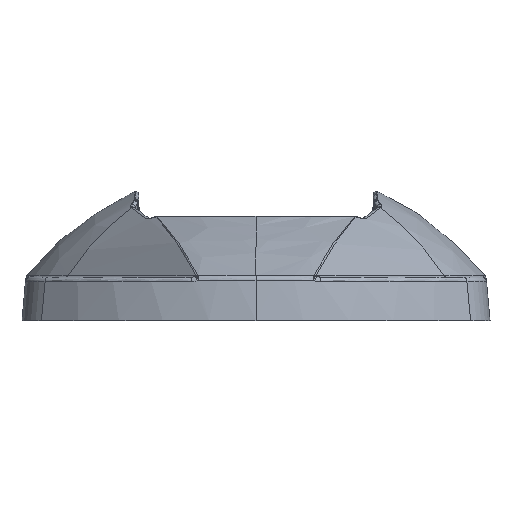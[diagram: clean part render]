
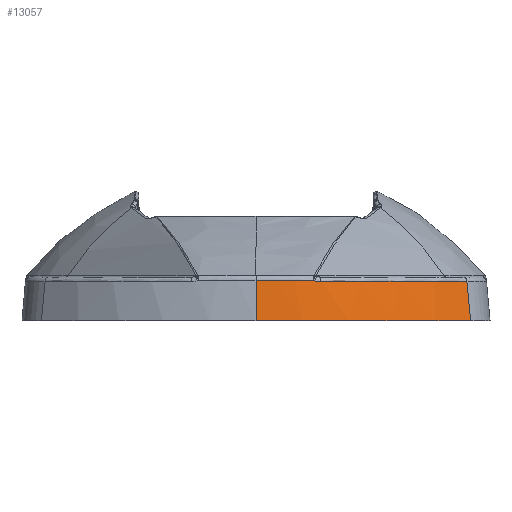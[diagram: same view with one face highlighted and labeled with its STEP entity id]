
A CAD part, left-side view. The second image highlights one B-rep face of the part: STEP entity #13057.
In plain terms, the highlighted conical face has half-angle 5 degrees and reference radius 99.437 mm.
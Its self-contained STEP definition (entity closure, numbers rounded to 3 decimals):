
#2473=DIRECTION('',(0.087,0.,0.996));
#2474=VECTOR('',#2473,12.913);
#2475=CARTESIAN_POINT('',(392.512,0.,
0.));
#2476=LINE('',#2475,#2474);
#2491=CARTESIAN_POINT('',(395.826,-20.774,12.649));
#2492=CARTESIAN_POINT('',(395.819,-20.744,12.644));
#2493=CARTESIAN_POINT('',(395.805,-20.685,12.634));
#2494=CARTESIAN_POINT('',(395.785,-20.596,12.62));
#2495=CARTESIAN_POINT('',(395.754,-20.46,12.603));
#2496=CARTESIAN_POINT('',(395.697,-20.197,12.578));
#2497=CARTESIAN_POINT('',(395.614,-19.801,12.572));
#2498=CARTESIAN_POINT('',(395.537,-19.402,12.611));
#2499=CARTESIAN_POINT('',(395.487,-19.124,12.663));
#2500=CARTESIAN_POINT('',(395.46,-18.969,12.702));
#2501=CARTESIAN_POINT('',(395.444,-18.876,12.724));
#2502=CARTESIAN_POINT('',(395.433,-18.807,12.75));
#2503=CARTESIAN_POINT('',(395.427,-18.775,12.75));
#2504=CARTESIAN_POINT('',(395.424,-18.76,12.755));
#2506=DIRECTION('',(0.031,0.094,0.995));
#2507=VECTOR('',#2506,12.711);
#2508=CARTESIAN_POINT('',(419.922,-68.78,
0.));
#2509=LINE('',#2508,#2507);
#2510=CARTESIAN_POINT('',(492.512,0.,
12.864));
#2511=DIRECTION('',(0.,0.,1.));
#2512=DIRECTION('',(-1.,0.,0.));
#2513=AXIS2_PLACEMENT_3D('',#2510,#2511,#2512);
#2525=CARTESIAN_POINT('',(395.366,-18.408,12.859));
#2544=CARTESIAN_POINT('',(395.366,-18.408,12.859));
#2545=CARTESIAN_POINT('',(395.37,-18.431,12.852));
#2546=CARTESIAN_POINT('',(395.377,-18.492,12.801));
#2547=CARTESIAN_POINT('',(395.395,-18.589,12.794));
#2548=CARTESIAN_POINT('',(395.409,-18.683,12.755));
#2549=CARTESIAN_POINT('',(395.42,-18.735,12.762));
#2550=CARTESIAN_POINT('',(395.424,-18.76,12.755));
#2572=CARTESIAN_POINT('',(395.424,-18.76,12.755));
#2596=CARTESIAN_POINT('',(492.512,0.,
12.649));
#2597=DIRECTION('',(0.,0.,1.));
#2598=DIRECTION('',(-0.978,-0.21,0.));
#2599=AXIS2_PLACEMENT_3D('',#2596,#2597,#2598);
#2609=CARTESIAN_POINT('',(395.826,-20.774,12.649));
#2617=CARTESIAN_POINT('',(420.318,-67.586,12.649));
#2624=CARTESIAN_POINT('',(492.512,0.,
0.));
#2625=DIRECTION('',(0.,0.,-1.));
#2626=DIRECTION('',(-0.726,-0.688,0.));
#2627=AXIS2_PLACEMENT_3D('',#2624,#2625,#2626);
#2636=CARTESIAN_POINT('',(419.922,-68.78,
0.));
#9431=VERTEX_POINT('',#2609);
#9678=CARTESIAN_POINT('',(393.638,0.,
12.864));
#9679=VERTEX_POINT('',#9678);
#9714=VERTEX_POINT('',#2572);
#9746=CARTESIAN_POINT('',(392.512,0.,
0.));
#9747=VERTEX_POINT('',#9746);
#9958=VERTEX_POINT('',#2525);
#9982=VERTEX_POINT('',#2636);
#9995=VERTEX_POINT('',#2617);
#13037=CARTESIAN_POINT('',(492.512,0.,
6.432));
#13038=DIRECTION('',(0.,0.,-1.));
#13039=DIRECTION('',(-1.,0.,0.));
#13040=AXIS2_PLACEMENT_3D('',#13037,#13038,#13039);
#13041=CONICAL_SURFACE('',#13040,99.437,5.);
#13043=ORIENTED_EDGE('',*,*,#13042,.T.);
#13045=ORIENTED_EDGE('',*,*,#13044,.T.);
#13047=ORIENTED_EDGE('',*,*,#13046,.F.);
#13049=ORIENTED_EDGE('',*,*,#13048,.T.);
#13051=ORIENTED_EDGE('',*,*,#13050,.F.);
#13053=ORIENTED_EDGE('',*,*,#13052,.T.);
#13054=ORIENTED_EDGE('',*,*,#13021,.T.);
#13055=EDGE_LOOP('',(#13043,#13045,#13047,#13049,#13051,#13053,#13054));
#13056=FACE_OUTER_BOUND('',#13055,.F.);
#13057=ADVANCED_FACE('',(#13056),#13041,.T.);
#2505=B_SPLINE_CURVE_WITH_KNOTS('',3,(#2491,#2492,#2493,#2494,#2495,#2496,#2497,
#2498,#2499,#2500,#2501,#2502,#2503,#2504),.UNSPECIFIED.,.F.,.F.,(4,1,1,1,1,1,1,
1,1,1,1,4),(0.,0.046,0.091,0.137,
0.253,0.49,0.726,0.84,
0.897,0.954,0.977,1.),.UNSPECIFIED.);
#2514=CIRCLE('',#2513,98.875);
#2551=B_SPLINE_CURVE_WITH_KNOTS('',3,(#2544,#2545,#2546,#2547,#2548,#2549,
#2550),.UNSPECIFIED.,.F.,.F.,(4,1,1,1,4),(0.,0.195,
0.588,0.794,1.),.UNSPECIFIED.);
#2600=CIRCLE('',#2599,98.893);
#2628=CIRCLE('',#2627,100.);
#13021=EDGE_CURVE('',#9747,#9679,#2476,.T.);
#13042=EDGE_CURVE('',#9679,#9958,#2514,.T.);
#13044=EDGE_CURVE('',#9958,#9714,#2551,.T.);
#13046=EDGE_CURVE('',#9431,#9714,#2505,.T.);
#13048=EDGE_CURVE('',#9431,#9995,#2600,.T.);
#13050=EDGE_CURVE('',#9982,#9995,#2509,.T.);
#13052=EDGE_CURVE('',#9982,#9747,#2628,.T.);
